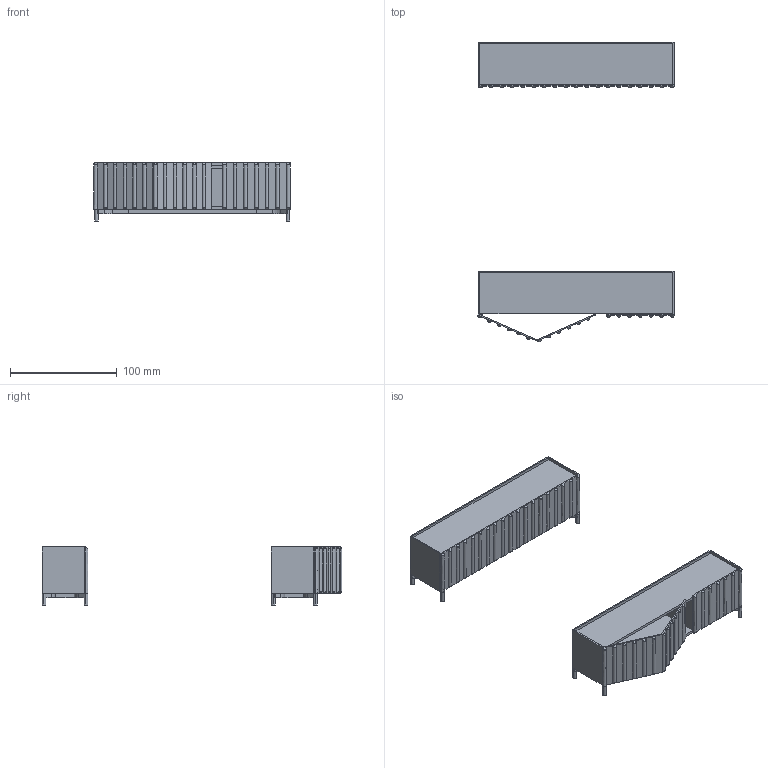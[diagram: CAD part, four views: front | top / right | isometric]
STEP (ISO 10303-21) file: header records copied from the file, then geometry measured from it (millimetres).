
FILE_DESCRIPTION(/* description */ (''),/* implementation_level */ '2;1');
FILE_NAME(/* name */ 'container183',/* time_stamp */ '2021-10-08T12:52:32+02:00',/* author */ (''),/* organization */ (''),/* preprocessor_version */ 'ST-DEVELOPER v15',/* originating_system */ '',/* authorisation */ '');
FILE_SCHEMA (('AUTOMOTIVE_DESIGN'));
Length unit declared in the file: millimetre
Products named in the file (1): Document
Bounding box: 184.21 x 281.45 x 54.5 mm (x, y, z)
Volume: 160917.2 mm3; surface area: 174596.8 mm2
Topology: 34 solids, 42 shells, 428 faces, 898 edges, 546 vertices
Faces by surface type: plane 318, bspline 110
Entity records: 11729 total; most frequent: CARTESIAN_POINT 5588, ORIENTED_EDGE 1760, EDGE_CURVE 896, B_SPLINE_CURVE_WITH_KNOTS 602, VERTEX_POINT 544, ADVANCED_FACE 428, FACE_OUTER_BOUND 428, EDGE_LOOP 428
